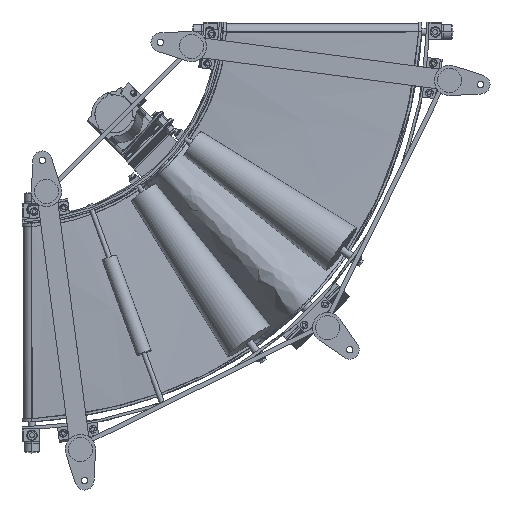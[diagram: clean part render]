
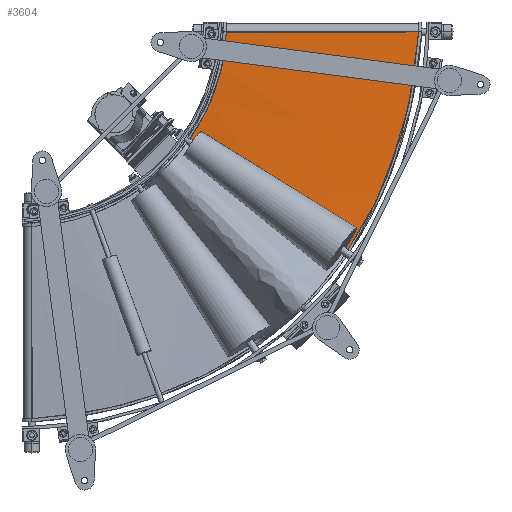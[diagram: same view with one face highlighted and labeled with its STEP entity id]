
A CAD part, front view. The second image highlights one B-rep face of the part: STEP entity #3604.
In plain terms, the highlighted free-form (B-spline) face has degree [3, 1] with [10, 2] control points.
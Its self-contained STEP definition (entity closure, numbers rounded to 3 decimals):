
#3604=ADVANCED_FACE('',(#19668),#19667,.F.);
#19667=( BOUNDED_SURFACE() B_SPLINE_SURFACE( 3,1,((#34485,#34486),(#34487,#34488),(#34489,#34490),(#34491,#34492),(#34493,#34494),(#34495,#34496),(#34497,#34498),(#34499,#34500),(#34501,#34502),(#34503,#34504)), .UNSPECIFIED.,.F.,.F.,.F.) B_SPLINE_SURFACE_WITH_KNOTS((4,1,1,1,1,1,1,4),(2,2),(0.,0.25,0.375,0.5,0.625,0.75,0.875,1.),(0.,1.), .UNSPECIFIED. ) GEOMETRIC_REPRESENTATION_ITEM() RATIONAL_B_SPLINE_SURFACE(((1.,1.),(1.,1.),(1.,1.),(1.,1.),(1.,1.),(1.,1.),(1.,1.),(1.,1.),(1.,1.),(1.,1.))) REPRESENTATION_ITEM('') SURFACE() );
#19668=FACE_OUTER_BOUND('',#34505,.T.);
#34485=CARTESIAN_POINT('',(800.,-31.1,-15.));
#34486=CARTESIAN_POINT('',(399.933,-31.054,-16.634));
#34487=CARTESIAN_POINT('',(797.269,-32.063,-54.649));
#34488=CARTESIAN_POINT('',(399.113,-30.508,-35.801));
#34489=CARTESIAN_POINT('',(789.955,-33.576,-113.908));
#34490=CARTESIAN_POINT('',(395.806,-29.635,-64.461));
#34491=CARTESIAN_POINT('',(773.113,-35.724,-191.627));
#34492=CARTESIAN_POINT('',(387.331,-28.382,-101.902));
#34493=CARTESIAN_POINT('',(756.782,-37.399,-248.985));
#34494=CARTESIAN_POINT('',(378.981,-27.402,-129.455));
#34495=CARTESIAN_POINT('',(736.631,-39.132,-305.121));
#34496=CARTESIAN_POINT('',(368.678,-26.387,-156.338));
#34497=CARTESIAN_POINT('',(712.556,-40.919,-359.69));
#34498=CARTESIAN_POINT('',(356.462,-25.342,-182.406));
#34499=CARTESIAN_POINT('',(684.514,-42.753,-412.333));
#34500=CARTESIAN_POINT('',(342.405,-24.272,-207.528));
#34501=CARTESIAN_POINT('',(663.19,-44.,-445.896));
#34502=CARTESIAN_POINT('',(331.854,-23.546,-223.558));
#34503=CARTESIAN_POINT('',(651.889,-44.628,-462.236));
#34504=CARTESIAN_POINT('',(326.301,-23.181,-231.376));
#34505=EDGE_LOOP('',(#48429,#48430,#48431,#48432,#48433));
#48429=ORIENTED_EDGE('',*,*,#54685,.F.);
#48430=ORIENTED_EDGE('',*,*,#54686,.T.);
#48431=ORIENTED_EDGE('',*,*,#54687,.T.);
#48432=ORIENTED_EDGE('',*,*,#54688,.T.);
#48433=ORIENTED_EDGE('',*,*,#54678,.T.);
#54678=EDGE_CURVE('',#80936,#80928,#80937,.T.);
#54685=EDGE_CURVE('',#80984,#80928,#80985,.T.);
#54686=EDGE_CURVE('',#80984,#80991,#80992,.T.);
#54687=EDGE_CURVE('',#80991,#80998,#80999,.T.);
#54688=EDGE_CURVE('',#80998,#80936,#81005,.T.);
#80928=VERTEX_POINT('',#105459);
#80936=VERTEX_POINT('',#105477);
#80937=(BOUNDED_CURVE() B_SPLINE_CURVE(3,(#105478,#105479,#105480,#105481),.UNSPECIFIED.,.F.,.F.) B_SPLINE_CURVE_WITH_KNOTS((4,4),(0.,0.001),.UNSPECIFIED.) CURVE() GEOMETRIC_REPRESENTATION_ITEM() RATIONAL_B_SPLINE_CURVE((1.,1.,1.,1.)) REPRESENTATION_ITEM('') );
#80984=VERTEX_POINT('',#105620);
#80985=LINE('',#105621,#105622);
#80991=VERTEX_POINT('',#105624);
#80992=(BOUNDED_CURVE() B_SPLINE_CURVE(3,(#105625,#105626,#105627,#105628,#105629,#105630,#105631,#105632,#105633,#105634,#105635,#105636,#105637,#105638,#105639,#105640,#105641,#105642,#105643,#105644,#105645,#105646,#105647,#105648,#105649,#105650,#105651,#105652,#105653,#105654,#105655,#105656),.UNSPECIFIED.,.F.,.F.) B_SPLINE_CURVE_WITH_KNOTS((4,2,2,2,2,2,2,2,2,2,2,2,2,2,2,4),(0.,0.03,0.059,0.118,0.178,0.237,0.266,0.296,0.355,0.37,0.377,0.385,0.414,0.444,0.459,0.474),.UNSPECIFIED.) CURVE() GEOMETRIC_REPRESENTATION_ITEM() RATIONAL_B_SPLINE_CURVE((1.,1.,1.,1.,1.,1.,1.,1.,1.,1.,1.,1.,1.,1.,1.,1.,1.,1.,1.,1.,1.,1.,1.,1.,1.,1.,1.,1.,1.,1.,1.,1.)) REPRESENTATION_ITEM('') );
#80998=VERTEX_POINT('',#105657);
#80999=LINE('',#105658,#105659);
#81005=(BOUNDED_CURVE() B_SPLINE_CURVE(3,(#105661,#105662,#105663,#105664,#105665,#105666,#105667,#105668,#105669,#105670,#105671,#105672,#105673,#105674,#105675,#105676),.UNSPECIFIED.,.F.,.F.) B_SPLINE_CURVE_WITH_KNOTS((4,2,2,2,2,2,2,4),(0.,0.029,0.058,0.087,0.102,0.116,0.175,0.233),.UNSPECIFIED.) CURVE() GEOMETRIC_REPRESENTATION_ITEM() RATIONAL_B_SPLINE_CURVE((1.,1.,1.,1.,1.,1.,1.,1.,1.,1.,1.,1.,1.,1.,1.,1.)) REPRESENTATION_ITEM('') );
#105459=CARTESIAN_POINT('',(330.214,-23.439,-234.15));
#105477=CARTESIAN_POINT('',(330.683,-23.469,-233.493));
#105478=CARTESIAN_POINT('',(330.683,-23.469,-233.493));
#105479=CARTESIAN_POINT('',(330.527,-23.459,-233.712));
#105480=CARTESIAN_POINT('',(330.37,-23.449,-233.931));
#105481=CARTESIAN_POINT('',(330.214,-23.439,-234.15));
#105620=CARTESIAN_POINT('',(647.993,-44.371,-459.473));
#105621=CARTESIAN_POINT('',(647.993,-44.371,-459.473));
#105622=VECTOR('',#105623,390.118);
#105623=DIRECTION('',(-0.815,0.054,0.578));
#105624=CARTESIAN_POINT('',(793.498,-31.099,-15.027));
#105625=CARTESIAN_POINT('',(647.993,-44.371,-459.473));
#105626=CARTESIAN_POINT('',(653.587,-44.062,-451.351));
#105627=CARTESIAN_POINT('',(659.022,-43.755,-443.118));
#105628=CARTESIAN_POINT('',(669.566,-43.142,-426.45));
#105629=CARTESIAN_POINT('',(674.675,-42.837,-418.014));
#105630=CARTESIAN_POINT('',(689.514,-41.926,-392.417));
#105631=CARTESIAN_POINT('',(698.751,-41.325,-374.97));
#105632=CARTESIAN_POINT('',(715.896,-40.139,-339.447));
#105633=CARTESIAN_POINT('',(723.811,-39.553,-321.366));
#105634=CARTESIAN_POINT('',(738.333,-38.4,-284.685));
#105635=CARTESIAN_POINT('',(744.939,-37.833,-266.087));
#105636=CARTESIAN_POINT('',(753.893,-36.997,-237.888));
#105637=CARTESIAN_POINT('',(756.719,-36.72,-228.437));
#105638=CARTESIAN_POINT('',(762.06,-36.173,-209.447));
#105639=CARTESIAN_POINT('',(764.574,-35.902,-199.911));
#105640=CARTESIAN_POINT('',(771.657,-35.097,-171.18));
#105641=CARTESIAN_POINT('',(775.763,-34.57,-151.877));
#105642=CARTESIAN_POINT('',(780.159,-33.927,-127.613));
#105643=CARTESIAN_POINT('',(781.002,-33.798,-122.753));
#105644=CARTESIAN_POINT('',(782.211,-33.607,-115.455));
#105645=CARTESIAN_POINT('',(782.605,-33.544,-113.021));
#105646=CARTESIAN_POINT('',(783.374,-33.417,-108.149));
#105647=CARTESIAN_POINT('',(783.747,-33.354,-105.712));
#105648=CARTESIAN_POINT('',(785.578,-33.039,-93.519));
#105649=CARTESIAN_POINT('',(786.899,-32.79,-83.744));
#105650=CARTESIAN_POINT('',(789.259,-32.297,-64.159));
#105651=CARTESIAN_POINT('',(790.298,-32.053,-54.35));
#105652=CARTESIAN_POINT('',(791.651,-31.692,-39.616));
#105653=CARTESIAN_POINT('',(792.068,-31.573,-34.702));
#105654=CARTESIAN_POINT('',(792.833,-31.335,-24.868));
#105655=CARTESIAN_POINT('',(793.185,-31.217,-19.949));
#105656=CARTESIAN_POINT('',(793.498,-31.099,-15.027));
#105657=CARTESIAN_POINT('',(406.419,-31.054,-16.607));
#105658=CARTESIAN_POINT('',(793.498,-31.099,-15.027));
#105659=VECTOR('',#105660,387.082);
#105660=DIRECTION('',(-1.,0.,-0.004));
#105661=CARTESIAN_POINT('',(406.419,-31.054,-16.607));
#105662=CARTESIAN_POINT('',(405.92,-30.795,-26.299));
#105663=CARTESIAN_POINT('',(405.077,-30.527,-35.972));
#105664=CARTESIAN_POINT('',(402.7,-29.974,-55.232));
#105665=CARTESIAN_POINT('',(401.168,-29.689,-64.819));
#105666=CARTESIAN_POINT('',(397.428,-29.104,-83.862));
#105667=CARTESIAN_POINT('',(395.219,-28.803,-93.314));
#105668=CARTESIAN_POINT('',(391.407,-28.342,-107.361));
#105669=CARTESIAN_POINT('',(390.053,-28.186,-112.019));
#105670=CARTESIAN_POINT('',(387.181,-27.872,-121.287));
#105671=CARTESIAN_POINT('',(385.663,-27.713,-125.896));
#105672=CARTESIAN_POINT('',(377.667,-26.912,-148.794));
#105673=CARTESIAN_POINT('',(369.957,-26.245,-166.652));
#105674=CARTESIAN_POINT('',(352.099,-24.878,-201.106));
#105675=CARTESIAN_POINT('',(341.953,-24.178,-217.698));
#105676=CARTESIAN_POINT('',(330.683,-23.469,-233.493));
